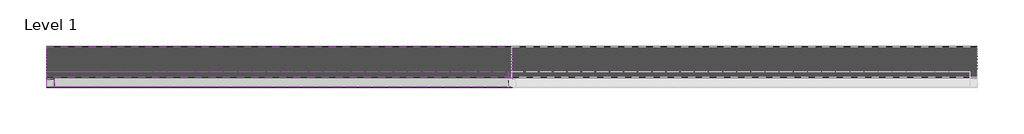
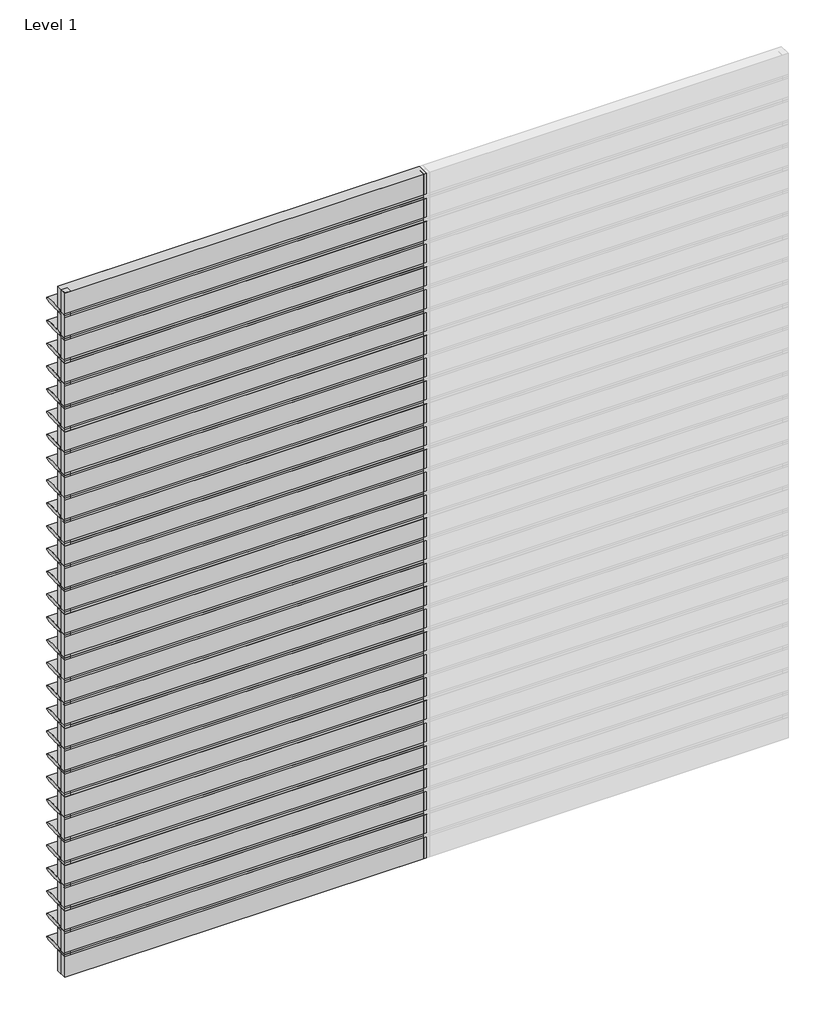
# One storey, part 1 of 2: 74 members, 60 plates.
"""IFC4 building model written with IfcOpenShell, lengths in millimetres."""

from ifc_helpers import new_model, si_unit, origin, place, context, project, spatial, transform, mapped, element, save
from components import rectangular_mullion_139a1767, rectangular_mullion_a06afc58, empty_system_panel_empty_0b604c90, empty_system_panel_empty_68612530, empty_system_panel_empty_34a2d59f

model = new_model("IFC4")

# Units and contexts
model_context = context("Model", 3, world=origin())
ifc_project = project(units=[si_unit("LENGTHUNIT", "METRE", prefix="MILLI")], contexts=[model_context])

# Site, building, storey
site = spatial("IfcSite", under=ifc_project)
building = spatial("IfcBuilding", under=site)
storey = spatial("IfcBuildingStorey", under=building, Name="Level 1", Elevation=0.0)

# Members
placement = place(None, origin())
rectangular_mullion_shape = rectangular_mullion_139a1767(model_context)
element("IfcMember", 1, ObjectType="Rectangular Mullion : RSen_21_CWM_blade - 200 ellips - 0°_gen_duco projects", at=placement, inside=storey, context=model_context, shape_type="MappedRepresentation", body=[
    mapped(rectangular_mullion_shape, transform((3000.0, 3000.0, 200.0), x_axis=(0.0, 0.0, 1.0), y_axis=(0.0, 1.0, 0.0), z_axis=(-1.0, 0.0, 0.0))),
])
element("IfcMember", 2, ObjectType="Rectangular Mullion : RSen_21_CWM_blade - 200 ellips - 0°_gen_duco projects", at=placement, inside=storey, context=model_context, shape_type="MappedRepresentation", body=[
    mapped(rectangular_mullion_shape, transform((3000.0, 3000.0, 400.0), x_axis=(0.0, 0.0, 1.0), y_axis=(0.0, 1.0, 0.0), z_axis=(-1.0, 0.0, 0.0))),
])
element("IfcMember", 3, ObjectType="Rectangular Mullion : RSen_21_CWM_blade - 200 ellips - 0°_gen_duco projects", at=placement, inside=storey, context=model_context, shape_type="MappedRepresentation", body=[
    mapped(rectangular_mullion_shape, transform((3000.0, 3000.0, 600.0), x_axis=(0.0, 0.0, 1.0), y_axis=(0.0, 1.0, 0.0), z_axis=(-1.0, 0.0, 0.0))),
])
element("IfcMember", 4, ObjectType="Rectangular Mullion : RSen_21_CWM_blade - 200 ellips - 0°_gen_duco projects", at=placement, inside=storey, context=model_context, shape_type="MappedRepresentation", body=[
    mapped(rectangular_mullion_shape, transform((3000.0, 3000.0, 800.0), x_axis=(0.0, 0.0, 1.0), y_axis=(0.0, 1.0, 0.0), z_axis=(-1.0, 0.0, 0.0))),
])
element("IfcMember", 5, ObjectType="Rectangular Mullion : RSen_21_CWM_blade - 200 ellips - 0°_gen_duco projects", at=placement, inside=storey, context=model_context, shape_type="MappedRepresentation", body=[
    mapped(rectangular_mullion_shape, transform((3000.0, 3000.0, 1000.0), x_axis=(0.0, 0.0, 1.0), y_axis=(0.0, 1.0, 0.0), z_axis=(-1.0, 0.0, 0.0))),
])
element("IfcMember", 6, ObjectType="Rectangular Mullion : RSen_21_CWM_blade - 200 ellips - 0°_gen_duco projects", at=placement, inside=storey, context=model_context, shape_type="MappedRepresentation", body=[
    mapped(rectangular_mullion_shape, transform((3000.0, 3000.0, 1200.0), x_axis=(0.0, 0.0, 1.0), y_axis=(0.0, 1.0, 0.0), z_axis=(-1.0, 0.0, 0.0))),
])
element("IfcMember", 7, ObjectType="Rectangular Mullion : RSen_21_CWM_blade - 200 ellips - 0°_gen_duco projects", at=placement, inside=storey, context=model_context, shape_type="MappedRepresentation", body=[
    mapped(rectangular_mullion_shape, transform((3000.0, 3000.0, 1400.0), x_axis=(0.0, 0.0, 1.0), y_axis=(0.0, 1.0, 0.0), z_axis=(-1.0, 0.0, 0.0))),
])
element("IfcMember", 8, ObjectType="Rectangular Mullion : RSen_21_CWM_blade - 200 ellips - 0°_gen_duco projects", at=placement, inside=storey, context=model_context, shape_type="MappedRepresentation", body=[
    mapped(rectangular_mullion_shape, transform((3000.0, 3000.0, 1600.0), x_axis=(0.0, 0.0, 1.0), y_axis=(0.0, 1.0, 0.0), z_axis=(-1.0, 0.0, 0.0))),
])
element("IfcMember", 9, ObjectType="Rectangular Mullion : RSen_21_CWM_blade - 200 ellips - 0°_gen_duco projects", at=placement, inside=storey, context=model_context, shape_type="MappedRepresentation", body=[
    mapped(rectangular_mullion_shape, transform((3000.0, 3000.0, 1800.0), x_axis=(0.0, 0.0, 1.0), y_axis=(0.0, 1.0, 0.0), z_axis=(-1.0, 0.0, 0.0))),
])
element("IfcMember", 10, ObjectType="Rectangular Mullion : RSen_21_CWM_blade - 200 ellips - 0°_gen_duco projects", at=placement, inside=storey, context=model_context, shape_type="MappedRepresentation", body=[
    mapped(rectangular_mullion_shape, transform((3000.0, 3000.0, 2000.0), x_axis=(0.0, 0.0, 1.0), y_axis=(0.0, 1.0, 0.0), z_axis=(-1.0, 0.0, 0.0))),
])
element("IfcMember", 11, ObjectType="Rectangular Mullion : RSen_21_CWM_blade - 200 ellips - 0°_gen_duco projects", at=placement, inside=storey, context=model_context, shape_type="MappedRepresentation", body=[
    mapped(rectangular_mullion_shape, transform((3000.0, 3000.0, 2200.0), x_axis=(0.0, 0.0, 1.0), y_axis=(0.0, 1.0, 0.0), z_axis=(-1.0, 0.0, 0.0))),
])
element("IfcMember", 12, ObjectType="Rectangular Mullion : RSen_21_CWM_blade - 200 ellips - 0°_gen_duco projects", at=placement, inside=storey, context=model_context, shape_type="MappedRepresentation", body=[
    mapped(rectangular_mullion_shape, transform((3000.0, 3000.0, 2400.0), x_axis=(0.0, 0.0, 1.0), y_axis=(0.0, 1.0, 0.0), z_axis=(-1.0, 0.0, 0.0))),
])
element("IfcMember", 13, ObjectType="Rectangular Mullion : RSen_21_CWM_blade - 200 ellips - 0°_gen_duco projects", at=placement, inside=storey, context=model_context, shape_type="MappedRepresentation", body=[
    mapped(rectangular_mullion_shape, transform((3000.0, 3000.0, 2600.0), x_axis=(0.0, 0.0, 1.0), y_axis=(0.0, 1.0, 0.0), z_axis=(-1.0, 0.0, 0.0))),
])
element("IfcMember", 14, ObjectType="Rectangular Mullion : RSen_21_CWM_blade - 200 ellips - 0°_gen_duco projects", at=placement, inside=storey, context=model_context, shape_type="MappedRepresentation", body=[
    mapped(rectangular_mullion_shape, transform((3000.0, 3000.0, 2800.0), x_axis=(0.0, 0.0, 1.0), y_axis=(0.0, 1.0, 0.0), z_axis=(-1.0, 0.0, 0.0))),
])
element("IfcMember", 15, ObjectType="Rectangular Mullion : RSen_21_CWM_blade - 200 ellips - 0°_gen_duco projects", at=placement, inside=storey, context=model_context, shape_type="MappedRepresentation", body=[
    mapped(rectangular_mullion_shape, transform((3000.0, 3000.0, 3000.0), x_axis=(0.0, 0.0, 1.0), y_axis=(0.0, 1.0, 0.0), z_axis=(-1.0, 0.0, 0.0))),
])
element("IfcMember", 16, ObjectType="Rectangular Mullion : RSen_21_CWM_blade - 200 ellips - 0°_gen_duco projects", at=placement, inside=storey, context=model_context, shape_type="MappedRepresentation", body=[
    mapped(rectangular_mullion_shape, transform((0.0, 3000.0, 200.0), x_axis=(0.0, 0.0, 1.0), y_axis=(0.0, 1.0, 0.0), z_axis=(-1.0, 0.0, 0.0))),
])
element("IfcMember", 17, ObjectType="Rectangular Mullion : RSen_21_CWM_blade - 200 ellips - 0°_gen_duco projects", at=placement, inside=storey, context=model_context, shape_type="MappedRepresentation", body=[
    mapped(rectangular_mullion_shape, transform((0.0, 3000.0, 400.0), x_axis=(0.0, 0.0, 1.0), y_axis=(0.0, 1.0, 0.0), z_axis=(-1.0, 0.0, 0.0))),
])
element("IfcMember", 18, ObjectType="Rectangular Mullion : RSen_21_CWM_blade - 200 ellips - 0°_gen_duco projects", at=placement, inside=storey, context=model_context, shape_type="MappedRepresentation", body=[
    mapped(rectangular_mullion_shape, transform((0.0, 3000.0, 600.0), x_axis=(0.0, 0.0, 1.0), y_axis=(0.0, 1.0, 0.0), z_axis=(-1.0, 0.0, 0.0))),
])
element("IfcMember", 19, ObjectType="Rectangular Mullion : RSen_21_CWM_blade - 200 ellips - 0°_gen_duco projects", at=placement, inside=storey, context=model_context, shape_type="MappedRepresentation", body=[
    mapped(rectangular_mullion_shape, transform((0.0, 3000.0, 800.0), x_axis=(0.0, 0.0, 1.0), y_axis=(0.0, 1.0, 0.0), z_axis=(-1.0, 0.0, 0.0))),
])
element("IfcMember", 20, ObjectType="Rectangular Mullion : RSen_21_CWM_blade - 200 ellips - 0°_gen_duco projects", at=placement, inside=storey, context=model_context, shape_type="MappedRepresentation", body=[
    mapped(rectangular_mullion_shape, transform((0.0, 3000.0, 1000.0), x_axis=(0.0, 0.0, 1.0), y_axis=(0.0, 1.0, 0.0), z_axis=(-1.0, 0.0, 0.0))),
])
element("IfcMember", 21, ObjectType="Rectangular Mullion : RSen_21_CWM_blade - 200 ellips - 0°_gen_duco projects", at=placement, inside=storey, context=model_context, shape_type="MappedRepresentation", body=[
    mapped(rectangular_mullion_shape, transform((0.0, 3000.0, 1200.0), x_axis=(0.0, 0.0, 1.0), y_axis=(0.0, 1.0, 0.0), z_axis=(-1.0, 0.0, 0.0))),
])
element("IfcMember", 22, ObjectType="Rectangular Mullion : RSen_21_CWM_blade - 200 ellips - 0°_gen_duco projects", at=placement, inside=storey, context=model_context, shape_type="MappedRepresentation", body=[
    mapped(rectangular_mullion_shape, transform((0.0, 3000.0, 1400.0), x_axis=(0.0, 0.0, 1.0), y_axis=(0.0, 1.0, 0.0), z_axis=(-1.0, 0.0, 0.0))),
])
element("IfcMember", 23, ObjectType="Rectangular Mullion : RSen_21_CWM_blade - 200 ellips - 0°_gen_duco projects", at=placement, inside=storey, context=model_context, shape_type="MappedRepresentation", body=[
    mapped(rectangular_mullion_shape, transform((0.0, 3000.0, 1600.0), x_axis=(0.0, 0.0, 1.0), y_axis=(0.0, 1.0, 0.0), z_axis=(-1.0, 0.0, 0.0))),
])
element("IfcMember", 24, ObjectType="Rectangular Mullion : RSen_21_CWM_blade - 200 ellips - 0°_gen_duco projects", at=placement, inside=storey, context=model_context, shape_type="MappedRepresentation", body=[
    mapped(rectangular_mullion_shape, transform((0.0, 3000.0, 1800.0), x_axis=(0.0, 0.0, 1.0), y_axis=(0.0, 1.0, 0.0), z_axis=(-1.0, 0.0, 0.0))),
])
element("IfcMember", 25, ObjectType="Rectangular Mullion : RSen_21_CWM_blade - 200 ellips - 0°_gen_duco projects", at=placement, inside=storey, context=model_context, shape_type="MappedRepresentation", body=[
    mapped(rectangular_mullion_shape, transform((0.0, 3000.0, 2000.0), x_axis=(0.0, 0.0, 1.0), y_axis=(0.0, 1.0, 0.0), z_axis=(-1.0, 0.0, 0.0))),
])
element("IfcMember", 26, ObjectType="Rectangular Mullion : RSen_21_CWM_blade - 200 ellips - 0°_gen_duco projects", at=placement, inside=storey, context=model_context, shape_type="MappedRepresentation", body=[
    mapped(rectangular_mullion_shape, transform((0.0, 3000.0, 2200.0), x_axis=(0.0, 0.0, 1.0), y_axis=(0.0, 1.0, 0.0), z_axis=(-1.0, 0.0, 0.0))),
])
element("IfcMember", 27, ObjectType="Rectangular Mullion : RSen_21_CWM_blade - 200 ellips - 0°_gen_duco projects", at=placement, inside=storey, context=model_context, shape_type="MappedRepresentation", body=[
    mapped(rectangular_mullion_shape, transform((0.0, 3000.0, 2400.0), x_axis=(0.0, 0.0, 1.0), y_axis=(0.0, 1.0, 0.0), z_axis=(-1.0, 0.0, 0.0))),
])
element("IfcMember", 28, ObjectType="Rectangular Mullion : RSen_21_CWM_blade - 200 ellips - 0°_gen_duco projects", at=placement, inside=storey, context=model_context, shape_type="MappedRepresentation", body=[
    mapped(rectangular_mullion_shape, transform((0.0, 3000.0, 2600.0), x_axis=(0.0, 0.0, 1.0), y_axis=(0.0, 1.0, 0.0), z_axis=(-1.0, 0.0, 0.0))),
])
element("IfcMember", 29, ObjectType="Rectangular Mullion : RSen_21_CWM_blade - 200 ellips - 0°_gen_duco projects", at=placement, inside=storey, context=model_context, shape_type="MappedRepresentation", body=[
    mapped(rectangular_mullion_shape, transform((0.0, 3000.0, 2800.0), x_axis=(0.0, 0.0, 1.0), y_axis=(0.0, 1.0, 0.0), z_axis=(-1.0, 0.0, 0.0))),
])
element("IfcMember", 30, ObjectType="Rectangular Mullion : RSen_21_CWM_blade - 200 ellips - 0°_gen_duco projects", at=placement, inside=storey, context=model_context, shape_type="MappedRepresentation", body=[
    mapped(rectangular_mullion_shape, transform((0.0, 3000.0, 3000.0), x_axis=(0.0, 0.0, 1.0), y_axis=(0.0, 1.0, 0.0), z_axis=(-1.0, 0.0, 0.0))),
])
element("IfcMember", 31, ObjectType="Rectangular Mullion : RSen_21_CWM_blade - 200 ellips - 0°_gen_duco projects", at=placement, inside=storey, context=model_context, shape_type="MappedRepresentation", body=[
    mapped(rectangular_mullion_shape, transform((0.0, 3000.0, 3200.0), x_axis=(0.0, 0.0, 1.0), y_axis=(0.0, 1.0, 0.0), z_axis=(-1.0, 0.0, 0.0))),
])
element("IfcMember", 32, ObjectType="Rectangular Mullion : RSen_21_CWM_blade - 200 ellips - 0°_gen_duco projects", at=placement, inside=storey, context=model_context, shape_type="MappedRepresentation", body=[
    mapped(rectangular_mullion_shape, transform((0.0, 3000.0, 3400.0), x_axis=(0.0, 0.0, 1.0), y_axis=(0.0, 1.0, 0.0), z_axis=(-1.0, 0.0, 0.0))),
])
element("IfcMember", 33, ObjectType="Rectangular Mullion : RSen_21_CWM_blade - 200 ellips - 0°_gen_duco projects", at=placement, inside=storey, context=model_context, shape_type="MappedRepresentation", body=[
    mapped(rectangular_mullion_shape, transform((0.0, 3000.0, 3600.0), x_axis=(0.0, 0.0, 1.0), y_axis=(0.0, 1.0, 0.0), z_axis=(-1.0, 0.0, 0.0))),
])
element("IfcMember", 34, ObjectType="Rectangular Mullion : RSen_21_CWM_blade - 200 ellips - 0°_gen_duco projects", at=placement, inside=storey, context=model_context, shape_type="MappedRepresentation", body=[
    mapped(rectangular_mullion_shape, transform((0.0, 3000.0, 3800.0), x_axis=(0.0, 0.0, 1.0), y_axis=(0.0, 1.0, 0.0), z_axis=(-1.0, 0.0, 0.0))),
])
element("IfcMember", 35, ObjectType="Rectangular Mullion : RSen_21_CWM_blade - 200 ellips - 0°_gen_duco projects", at=placement, inside=storey, context=model_context, shape_type="MappedRepresentation", body=[
    mapped(rectangular_mullion_shape, transform((0.0, 3000.0, 4000.0), x_axis=(0.0, 0.0, 1.0), y_axis=(0.0, 1.0, 0.0), z_axis=(-1.0, 0.0, 0.0))),
])
element("IfcMember", 36, ObjectType="Rectangular Mullion : RSen_21_CWM_blade - 200 ellips - 0°_gen_duco projects", at=placement, inside=storey, context=model_context, shape_type="MappedRepresentation", body=[
    mapped(rectangular_mullion_shape, transform((0.0, 3000.0, 4200.0), x_axis=(0.0, 0.0, 1.0), y_axis=(0.0, 1.0, 0.0), z_axis=(-1.0, 0.0, 0.0))),
])
element("IfcMember", 37, ObjectType="Rectangular Mullion : RSen_21_CWM_blade - 200 ellips - 0°_gen_duco projects", at=placement, inside=storey, context=model_context, shape_type="MappedRepresentation", body=[
    mapped(rectangular_mullion_shape, transform((0.0, 3000.0, 4400.0), x_axis=(0.0, 0.0, 1.0), y_axis=(0.0, 1.0, 0.0), z_axis=(-1.0, 0.0, 0.0))),
])
element("IfcMember", 38, ObjectType="Rectangular Mullion : RSen_21_CWM_blade - 200 ellips - 0°_gen_duco projects", at=placement, inside=storey, context=model_context, shape_type="MappedRepresentation", body=[
    mapped(rectangular_mullion_shape, transform((0.0, 3000.0, 4600.0), x_axis=(0.0, 0.0, 1.0), y_axis=(0.0, 1.0, 0.0), z_axis=(-1.0, 0.0, 0.0))),
])
element("IfcMember", 39, ObjectType="Rectangular Mullion : RSen_21_CWM_blade - 200 ellips - 0°_gen_duco projects", at=placement, inside=storey, context=model_context, shape_type="MappedRepresentation", body=[
    mapped(rectangular_mullion_shape, transform((0.0, 3000.0, 4800.0), x_axis=(0.0, 0.0, 1.0), y_axis=(0.0, 1.0, 0.0), z_axis=(-1.0, 0.0, 0.0))),
])
element("IfcMember", 40, ObjectType="Rectangular Mullion : RSen_21_CWM_blade - 200 ellips - 0°_gen_duco projects", at=placement, inside=storey, context=model_context, shape_type="MappedRepresentation", body=[
    mapped(rectangular_mullion_shape, transform((0.0, 3000.0, 5000.0), x_axis=(0.0, 0.0, 1.0), y_axis=(0.0, 1.0, 0.0), z_axis=(-1.0, 0.0, 0.0))),
])
element("IfcMember", 41, ObjectType="Rectangular Mullion : RSen_21_CWM_blade - 200 ellips - 0°_gen_duco projects", at=placement, inside=storey, context=model_context, shape_type="MappedRepresentation", body=[
    mapped(rectangular_mullion_shape, transform((0.0, 3000.0, 5200.0), x_axis=(0.0, 0.0, 1.0), y_axis=(0.0, 1.0, 0.0), z_axis=(-1.0, 0.0, 0.0))),
])
element("IfcMember", 42, ObjectType="Rectangular Mullion : RSen_21_CWM_blade - 200 ellips - 0°_gen_duco projects", at=placement, inside=storey, context=model_context, shape_type="MappedRepresentation", body=[
    mapped(rectangular_mullion_shape, transform((0.0, 3000.0, 5400.0), x_axis=(0.0, 0.0, 1.0), y_axis=(0.0, 1.0, 0.0), z_axis=(-1.0, 0.0, 0.0))),
])
element("IfcMember", 43, ObjectType="Rectangular Mullion : RSen_21_CWM_blade - 200 ellips - 0°_gen_duco projects", at=placement, inside=storey, context=model_context, shape_type="MappedRepresentation", body=[
    mapped(rectangular_mullion_shape, transform((0.0, 3000.0, 5600.0), x_axis=(0.0, 0.0, 1.0), y_axis=(0.0, 1.0, 0.0), z_axis=(-1.0, 0.0, 0.0))),
])
element("IfcMember", 44, ObjectType="Rectangular Mullion : RSen_21_CWM_blade - 200 ellips - 0°_gen_duco projects", at=placement, inside=storey, context=model_context, shape_type="MappedRepresentation", body=[
    mapped(rectangular_mullion_shape, transform((0.0, 3000.0, 5800.0), x_axis=(0.0, 0.0, 1.0), y_axis=(0.0, 1.0, 0.0), z_axis=(-1.0, 0.0, 0.0))),
])
rectangular_mullion_2_shape = rectangular_mullion_a06afc58(model_context)
element("IfcMember", 45, ObjectType="Rectangular Mullion : RSen_21_CWM_support profile 50x50 - left_gen_duco projects", at=placement, inside=storey, context=model_context, shape_type="MappedRepresentation", body=[
    mapped(rectangular_mullion_2_shape, transform((0.0, 3000.0, 0.0), x_axis=(-1.0, 0.0, 0.0), y_axis=(0.0, 1.0, 0.0), z_axis=(0.0, 0.0, -1.0))),
])
element("IfcMember", 46, ObjectType="Rectangular Mullion : RSen_21_CWM_support profile 50x50 - left_gen_duco projects", at=placement, inside=storey, context=model_context, shape_type="MappedRepresentation", body=[
    mapped(rectangular_mullion_2_shape, transform((0.0, 3000.0, 200.0), x_axis=(-1.0, 0.0, 0.0), y_axis=(0.0, 1.0, 0.0), z_axis=(0.0, 0.0, -1.0))),
])
element("IfcMember", 47, ObjectType="Rectangular Mullion : RSen_21_CWM_support profile 50x50 - left_gen_duco projects", at=placement, inside=storey, context=model_context, shape_type="MappedRepresentation", body=[
    mapped(rectangular_mullion_2_shape, transform((0.0, 3000.0, 400.0), x_axis=(-1.0, 0.0, 0.0), y_axis=(0.0, 1.0, 0.0), z_axis=(0.0, 0.0, -1.0))),
])
element("IfcMember", 48, ObjectType="Rectangular Mullion : RSen_21_CWM_support profile 50x50 - left_gen_duco projects", at=placement, inside=storey, context=model_context, shape_type="MappedRepresentation", body=[
    mapped(rectangular_mullion_2_shape, transform((0.0, 3000.0, 600.0), x_axis=(-1.0, 0.0, 0.0), y_axis=(0.0, 1.0, 0.0), z_axis=(0.0, 0.0, -1.0))),
])
element("IfcMember", 49, ObjectType="Rectangular Mullion : RSen_21_CWM_support profile 50x50 - left_gen_duco projects", at=placement, inside=storey, context=model_context, shape_type="MappedRepresentation", body=[
    mapped(rectangular_mullion_2_shape, transform((0.0, 3000.0, 800.0), x_axis=(-1.0, 0.0, 0.0), y_axis=(0.0, 1.0, 0.0), z_axis=(0.0, 0.0, -1.0))),
])
element("IfcMember", 50, ObjectType="Rectangular Mullion : RSen_21_CWM_support profile 50x50 - left_gen_duco projects", at=placement, inside=storey, context=model_context, shape_type="MappedRepresentation", body=[
    mapped(rectangular_mullion_2_shape, transform((0.0, 3000.0, 1000.0), x_axis=(-1.0, 0.0, 0.0), y_axis=(0.0, 1.0, 0.0), z_axis=(0.0, 0.0, -1.0))),
])
element("IfcMember", 51, ObjectType="Rectangular Mullion : RSen_21_CWM_support profile 50x50 - left_gen_duco projects", at=placement, inside=storey, context=model_context, shape_type="MappedRepresentation", body=[
    mapped(rectangular_mullion_2_shape, transform((0.0, 3000.0, 1200.0), x_axis=(-1.0, 0.0, 0.0), y_axis=(0.0, 1.0, 0.0), z_axis=(0.0, 0.0, -1.0))),
])
element("IfcMember", 52, ObjectType="Rectangular Mullion : RSen_21_CWM_support profile 50x50 - left_gen_duco projects", at=placement, inside=storey, context=model_context, shape_type="MappedRepresentation", body=[
    mapped(rectangular_mullion_2_shape, transform((0.0, 3000.0, 1400.0), x_axis=(-1.0, 0.0, 0.0), y_axis=(0.0, 1.0, 0.0), z_axis=(0.0, 0.0, -1.0))),
])
element("IfcMember", 53, ObjectType="Rectangular Mullion : RSen_21_CWM_support profile 50x50 - left_gen_duco projects", at=placement, inside=storey, context=model_context, shape_type="MappedRepresentation", body=[
    mapped(rectangular_mullion_2_shape, transform((0.0, 3000.0, 1600.0), x_axis=(-1.0, 0.0, 0.0), y_axis=(0.0, 1.0, 0.0), z_axis=(0.0, 0.0, -1.0))),
])
element("IfcMember", 54, ObjectType="Rectangular Mullion : RSen_21_CWM_support profile 50x50 - left_gen_duco projects", at=placement, inside=storey, context=model_context, shape_type="MappedRepresentation", body=[
    mapped(rectangular_mullion_2_shape, transform((0.0, 3000.0, 1800.0), x_axis=(-1.0, 0.0, 0.0), y_axis=(0.0, 1.0, 0.0), z_axis=(0.0, 0.0, -1.0))),
])
element("IfcMember", 55, ObjectType="Rectangular Mullion : RSen_21_CWM_support profile 50x50 - left_gen_duco projects", at=placement, inside=storey, context=model_context, shape_type="MappedRepresentation", body=[
    mapped(rectangular_mullion_2_shape, transform((0.0, 3000.0, 2000.0), x_axis=(-1.0, 0.0, 0.0), y_axis=(0.0, 1.0, 0.0), z_axis=(0.0, 0.0, -1.0))),
])
element("IfcMember", 56, ObjectType="Rectangular Mullion : RSen_21_CWM_support profile 50x50 - left_gen_duco projects", at=placement, inside=storey, context=model_context, shape_type="MappedRepresentation", body=[
    mapped(rectangular_mullion_2_shape, transform((0.0, 3000.0, 2200.0), x_axis=(-1.0, 0.0, 0.0), y_axis=(0.0, 1.0, 0.0), z_axis=(0.0, 0.0, -1.0))),
])
element("IfcMember", 57, ObjectType="Rectangular Mullion : RSen_21_CWM_support profile 50x50 - left_gen_duco projects", at=placement, inside=storey, context=model_context, shape_type="MappedRepresentation", body=[
    mapped(rectangular_mullion_2_shape, transform((0.0, 3000.0, 2400.0), x_axis=(-1.0, 0.0, 0.0), y_axis=(0.0, 1.0, 0.0), z_axis=(0.0, 0.0, -1.0))),
])
element("IfcMember", 58, ObjectType="Rectangular Mullion : RSen_21_CWM_support profile 50x50 - left_gen_duco projects", at=placement, inside=storey, context=model_context, shape_type="MappedRepresentation", body=[
    mapped(rectangular_mullion_2_shape, transform((0.0, 3000.0, 2600.0), x_axis=(-1.0, 0.0, 0.0), y_axis=(0.0, 1.0, 0.0), z_axis=(0.0, 0.0, -1.0))),
])
element("IfcMember", 59, ObjectType="Rectangular Mullion : RSen_21_CWM_support profile 50x50 - left_gen_duco projects", at=placement, inside=storey, context=model_context, shape_type="MappedRepresentation", body=[
    mapped(rectangular_mullion_2_shape, transform((0.0, 3000.0, 2800.0), x_axis=(-1.0, 0.0, 0.0), y_axis=(0.0, 1.0, 0.0), z_axis=(0.0, 0.0, -1.0))),
])
element("IfcMember", 60, ObjectType="Rectangular Mullion : RSen_21_CWM_support profile 50x50 - left_gen_duco projects", at=placement, inside=storey, context=model_context, shape_type="MappedRepresentation", body=[
    mapped(rectangular_mullion_2_shape, transform((0.0, 3000.0, 3000.0), x_axis=(-1.0, 0.0, 0.0), y_axis=(0.0, 1.0, 0.0), z_axis=(0.0, 0.0, -1.0))),
])
element("IfcMember", 61, ObjectType="Rectangular Mullion : RSen_21_CWM_support profile 50x50 - left_gen_duco projects", at=placement, inside=storey, context=model_context, shape_type="MappedRepresentation", body=[
    mapped(rectangular_mullion_2_shape, transform((0.0, 3000.0, 3200.0), x_axis=(-1.0, 0.0, 0.0), y_axis=(0.0, 1.0, 0.0), z_axis=(0.0, 0.0, -1.0))),
])
element("IfcMember", 62, ObjectType="Rectangular Mullion : RSen_21_CWM_support profile 50x50 - left_gen_duco projects", at=placement, inside=storey, context=model_context, shape_type="MappedRepresentation", body=[
    mapped(rectangular_mullion_2_shape, transform((0.0, 3000.0, 3400.0), x_axis=(-1.0, 0.0, 0.0), y_axis=(0.0, 1.0, 0.0), z_axis=(0.0, 0.0, -1.0))),
])
element("IfcMember", 63, ObjectType="Rectangular Mullion : RSen_21_CWM_support profile 50x50 - left_gen_duco projects", at=placement, inside=storey, context=model_context, shape_type="MappedRepresentation", body=[
    mapped(rectangular_mullion_2_shape, transform((0.0, 3000.0, 3600.0), x_axis=(-1.0, 0.0, 0.0), y_axis=(0.0, 1.0, 0.0), z_axis=(0.0, 0.0, -1.0))),
])
element("IfcMember", 64, ObjectType="Rectangular Mullion : RSen_21_CWM_support profile 50x50 - left_gen_duco projects", at=placement, inside=storey, context=model_context, shape_type="MappedRepresentation", body=[
    mapped(rectangular_mullion_2_shape, transform((0.0, 3000.0, 3800.0), x_axis=(-1.0, 0.0, 0.0), y_axis=(0.0, 1.0, 0.0), z_axis=(0.0, 0.0, -1.0))),
])
element("IfcMember", 65, ObjectType="Rectangular Mullion : RSen_21_CWM_support profile 50x50 - left_gen_duco projects", at=placement, inside=storey, context=model_context, shape_type="MappedRepresentation", body=[
    mapped(rectangular_mullion_2_shape, transform((0.0, 3000.0, 4000.0), x_axis=(-1.0, 0.0, 0.0), y_axis=(0.0, 1.0, 0.0), z_axis=(0.0, 0.0, -1.0))),
])
element("IfcMember", 66, ObjectType="Rectangular Mullion : RSen_21_CWM_support profile 50x50 - left_gen_duco projects", at=placement, inside=storey, context=model_context, shape_type="MappedRepresentation", body=[
    mapped(rectangular_mullion_2_shape, transform((0.0, 3000.0, 4200.0), x_axis=(-1.0, 0.0, 0.0), y_axis=(0.0, 1.0, 0.0), z_axis=(0.0, 0.0, -1.0))),
])
element("IfcMember", 67, ObjectType="Rectangular Mullion : RSen_21_CWM_support profile 50x50 - left_gen_duco projects", at=placement, inside=storey, context=model_context, shape_type="MappedRepresentation", body=[
    mapped(rectangular_mullion_2_shape, transform((0.0, 3000.0, 4400.0), x_axis=(-1.0, 0.0, 0.0), y_axis=(0.0, 1.0, 0.0), z_axis=(0.0, 0.0, -1.0))),
])
element("IfcMember", 68, ObjectType="Rectangular Mullion : RSen_21_CWM_support profile 50x50 - left_gen_duco projects", at=placement, inside=storey, context=model_context, shape_type="MappedRepresentation", body=[
    mapped(rectangular_mullion_2_shape, transform((0.0, 3000.0, 4600.0), x_axis=(-1.0, 0.0, 0.0), y_axis=(0.0, 1.0, 0.0), z_axis=(0.0, 0.0, -1.0))),
])
element("IfcMember", 69, ObjectType="Rectangular Mullion : RSen_21_CWM_support profile 50x50 - left_gen_duco projects", at=placement, inside=storey, context=model_context, shape_type="MappedRepresentation", body=[
    mapped(rectangular_mullion_2_shape, transform((0.0, 3000.0, 4800.0), x_axis=(-1.0, 0.0, 0.0), y_axis=(0.0, 1.0, 0.0), z_axis=(0.0, 0.0, -1.0))),
])
element("IfcMember", 70, ObjectType="Rectangular Mullion : RSen_21_CWM_support profile 50x50 - left_gen_duco projects", at=placement, inside=storey, context=model_context, shape_type="MappedRepresentation", body=[
    mapped(rectangular_mullion_2_shape, transform((0.0, 3000.0, 5000.0), x_axis=(-1.0, 0.0, 0.0), y_axis=(0.0, 1.0, 0.0), z_axis=(0.0, 0.0, -1.0))),
])
element("IfcMember", 71, ObjectType="Rectangular Mullion : RSen_21_CWM_support profile 50x50 - left_gen_duco projects", at=placement, inside=storey, context=model_context, shape_type="MappedRepresentation", body=[
    mapped(rectangular_mullion_2_shape, transform((0.0, 3000.0, 5200.0), x_axis=(-1.0, 0.0, 0.0), y_axis=(0.0, 1.0, 0.0), z_axis=(0.0, 0.0, -1.0))),
])
element("IfcMember", 72, ObjectType="Rectangular Mullion : RSen_21_CWM_support profile 50x50 - left_gen_duco projects", at=placement, inside=storey, context=model_context, shape_type="MappedRepresentation", body=[
    mapped(rectangular_mullion_2_shape, transform((0.0, 3000.0, 5400.0), x_axis=(-1.0, 0.0, 0.0), y_axis=(0.0, 1.0, 0.0), z_axis=(0.0, 0.0, -1.0))),
])
element("IfcMember", 73, ObjectType="Rectangular Mullion : RSen_21_CWM_support profile 50x50 - left_gen_duco projects", at=placement, inside=storey, context=model_context, shape_type="MappedRepresentation", body=[
    mapped(rectangular_mullion_2_shape, transform((0.0, 3000.0, 5600.0), x_axis=(-1.0, 0.0, 0.0), y_axis=(0.0, 1.0, 0.0), z_axis=(0.0, 0.0, -1.0))),
])
element("IfcMember", 74, ObjectType="Rectangular Mullion : RSen_21_CWM_support profile 50x50 - left_gen_duco projects", at=placement, inside=storey, context=model_context, shape_type="MappedRepresentation", body=[
    mapped(rectangular_mullion_2_shape, transform((0.0, 3000.0, 5800.0), x_axis=(-1.0, 0.0, 0.0), y_axis=(0.0, 1.0, 0.0), z_axis=(0.0, 0.0, -1.0))),
])

# Plates
empty_system_panel_empty_shape = empty_system_panel_empty_0b604c90(model_context)
element("IfcPlate", 75, ObjectType="Empty System Panel : Empty", at=placement, inside=storey, context=model_context, shape_type="MappedRepresentation", body=[
    mapped(empty_system_panel_empty_shape, transform((1500.0, 3000.0, 0.0), x_axis=(-1.0, 0.0, 0.0), y_axis=(0.0, -1.0, 0.0), z_axis=(0.0, 0.0, 1.0))),
])
element("IfcPlate", 76, ObjectType="Empty System Panel : Empty", at=placement, inside=storey, context=model_context, shape_type="MappedRepresentation", body=[
    mapped(empty_system_panel_empty_shape, transform((1500.0, 3000.0, 5818.5), x_axis=(-1.0, 0.0, 0.0), y_axis=(0.0, -1.0, 0.0), z_axis=(0.0, 0.0, 1.0))),
])
empty_system_panel_empty_2_shape = empty_system_panel_empty_68612530(model_context)
element("IfcPlate", 77, ObjectType="Empty System Panel : Empty", at=placement, inside=storey, context=model_context, shape_type="MappedRepresentation", body=[
    mapped(empty_system_panel_empty_2_shape, transform((1500.0, 3000.0, 218.5), x_axis=(-1.0, 0.0, 0.0), y_axis=(0.0, -1.0, 0.0), z_axis=(0.0, 0.0, 1.0))),
])
element("IfcPlate", 78, ObjectType="Empty System Panel : Empty", at=placement, inside=storey, context=model_context, shape_type="MappedRepresentation", body=[
    mapped(empty_system_panel_empty_2_shape, transform((1500.0, 3000.0, 418.5), x_axis=(-1.0, 0.0, 0.0), y_axis=(0.0, -1.0, 0.0), z_axis=(0.0, 0.0, 1.0))),
])
element("IfcPlate", 79, ObjectType="Empty System Panel : Empty", at=placement, inside=storey, context=model_context, shape_type="MappedRepresentation", body=[
    mapped(empty_system_panel_empty_2_shape, transform((1500.0, 3000.0, 618.5), x_axis=(-1.0, 0.0, 0.0), y_axis=(0.0, -1.0, 0.0), z_axis=(0.0, 0.0, 1.0))),
])
element("IfcPlate", 80, ObjectType="Empty System Panel : Empty", at=placement, inside=storey, context=model_context, shape_type="MappedRepresentation", body=[
    mapped(empty_system_panel_empty_2_shape, transform((1500.0, 3000.0, 818.5), x_axis=(-1.0, 0.0, 0.0), y_axis=(0.0, -1.0, 0.0), z_axis=(0.0, 0.0, 1.0))),
])
element("IfcPlate", 81, ObjectType="Empty System Panel : Empty", at=placement, inside=storey, context=model_context, shape_type="MappedRepresentation", body=[
    mapped(empty_system_panel_empty_2_shape, transform((1500.0, 3000.0, 1018.5), x_axis=(-1.0, 0.0, 0.0), y_axis=(0.0, -1.0, 0.0), z_axis=(0.0, 0.0, 1.0))),
])
element("IfcPlate", 82, ObjectType="Empty System Panel : Empty", at=placement, inside=storey, context=model_context, shape_type="MappedRepresentation", body=[
    mapped(empty_system_panel_empty_2_shape, transform((1500.0, 3000.0, 1218.5), x_axis=(-1.0, 0.0, 0.0), y_axis=(0.0, -1.0, 0.0), z_axis=(0.0, 0.0, 1.0))),
])
element("IfcPlate", 83, ObjectType="Empty System Panel : Empty", at=placement, inside=storey, context=model_context, shape_type="MappedRepresentation", body=[
    mapped(empty_system_panel_empty_2_shape, transform((1500.0, 3000.0, 1418.5), x_axis=(-1.0, 0.0, 0.0), y_axis=(0.0, -1.0, 0.0), z_axis=(0.0, 0.0, 1.0))),
])
element("IfcPlate", 84, ObjectType="Empty System Panel : Empty", at=placement, inside=storey, context=model_context, shape_type="MappedRepresentation", body=[
    mapped(empty_system_panel_empty_2_shape, transform((1500.0, 3000.0, 1618.5), x_axis=(-1.0, 0.0, 0.0), y_axis=(0.0, -1.0, 0.0), z_axis=(0.0, 0.0, 1.0))),
])
element("IfcPlate", 85, ObjectType="Empty System Panel : Empty", at=placement, inside=storey, context=model_context, shape_type="MappedRepresentation", body=[
    mapped(empty_system_panel_empty_2_shape, transform((1500.0, 3000.0, 1818.5), x_axis=(-1.0, 0.0, 0.0), y_axis=(0.0, -1.0, 0.0), z_axis=(0.0, 0.0, 1.0))),
])
element("IfcPlate", 86, ObjectType="Empty System Panel : Empty", at=placement, inside=storey, context=model_context, shape_type="MappedRepresentation", body=[
    mapped(empty_system_panel_empty_2_shape, transform((1500.0, 3000.0, 2018.5), x_axis=(-1.0, 0.0, 0.0), y_axis=(0.0, -1.0, 0.0), z_axis=(0.0, 0.0, 1.0))),
])
element("IfcPlate", 87, ObjectType="Empty System Panel : Empty", at=placement, inside=storey, context=model_context, shape_type="MappedRepresentation", body=[
    mapped(empty_system_panel_empty_2_shape, transform((1500.0, 3000.0, 2218.5), x_axis=(-1.0, 0.0, 0.0), y_axis=(0.0, -1.0, 0.0), z_axis=(0.0, 0.0, 1.0))),
])
element("IfcPlate", 88, ObjectType="Empty System Panel : Empty", at=placement, inside=storey, context=model_context, shape_type="MappedRepresentation", body=[
    mapped(empty_system_panel_empty_2_shape, transform((1500.0, 3000.0, 2418.5), x_axis=(-1.0, 0.0, 0.0), y_axis=(0.0, -1.0, 0.0), z_axis=(0.0, 0.0, 1.0))),
])
element("IfcPlate", 89, ObjectType="Empty System Panel : Empty", at=placement, inside=storey, context=model_context, shape_type="MappedRepresentation", body=[
    mapped(empty_system_panel_empty_2_shape, transform((1500.0, 3000.0, 2618.5), x_axis=(-1.0, 0.0, 0.0), y_axis=(0.0, -1.0, 0.0), z_axis=(0.0, 0.0, 1.0))),
])
element("IfcPlate", 90, ObjectType="Empty System Panel : Empty", at=placement, inside=storey, context=model_context, shape_type="MappedRepresentation", body=[
    mapped(empty_system_panel_empty_2_shape, transform((1500.0, 3000.0, 2818.5), x_axis=(-1.0, 0.0, 0.0), y_axis=(0.0, -1.0, 0.0), z_axis=(0.0, 0.0, 1.0))),
])
element("IfcPlate", 91, ObjectType="Empty System Panel : Empty", at=placement, inside=storey, context=model_context, shape_type="MappedRepresentation", body=[
    mapped(empty_system_panel_empty_2_shape, transform((1500.0, 3000.0, 3018.5), x_axis=(-1.0, 0.0, 0.0), y_axis=(0.0, -1.0, 0.0), z_axis=(0.0, 0.0, 1.0))),
])
element("IfcPlate", 92, ObjectType="Empty System Panel : Empty", at=placement, inside=storey, context=model_context, shape_type="MappedRepresentation", body=[
    mapped(empty_system_panel_empty_2_shape, transform((1500.0, 3000.0, 3218.5), x_axis=(-1.0, 0.0, 0.0), y_axis=(0.0, -1.0, 0.0), z_axis=(0.0, 0.0, 1.0))),
])
element("IfcPlate", 93, ObjectType="Empty System Panel : Empty", at=placement, inside=storey, context=model_context, shape_type="MappedRepresentation", body=[
    mapped(empty_system_panel_empty_2_shape, transform((1500.0, 3000.0, 3418.5), x_axis=(-1.0, 0.0, 0.0), y_axis=(0.0, -1.0, 0.0), z_axis=(0.0, 0.0, 1.0))),
])
element("IfcPlate", 94, ObjectType="Empty System Panel : Empty", at=placement, inside=storey, context=model_context, shape_type="MappedRepresentation", body=[
    mapped(empty_system_panel_empty_2_shape, transform((1500.0, 3000.0, 3618.5), x_axis=(-1.0, 0.0, 0.0), y_axis=(0.0, -1.0, 0.0), z_axis=(0.0, 0.0, 1.0))),
])
element("IfcPlate", 95, ObjectType="Empty System Panel : Empty", at=placement, inside=storey, context=model_context, shape_type="MappedRepresentation", body=[
    mapped(empty_system_panel_empty_2_shape, transform((1500.0, 3000.0, 3818.5), x_axis=(-1.0, 0.0, 0.0), y_axis=(0.0, -1.0, 0.0), z_axis=(0.0, 0.0, 1.0))),
])
element("IfcPlate", 96, ObjectType="Empty System Panel : Empty", at=placement, inside=storey, context=model_context, shape_type="MappedRepresentation", body=[
    mapped(empty_system_panel_empty_2_shape, transform((1500.0, 3000.0, 4018.5), x_axis=(-1.0, 0.0, 0.0), y_axis=(0.0, -1.0, 0.0), z_axis=(0.0, 0.0, 1.0))),
])
element("IfcPlate", 97, ObjectType="Empty System Panel : Empty", at=placement, inside=storey, context=model_context, shape_type="MappedRepresentation", body=[
    mapped(empty_system_panel_empty_2_shape, transform((1500.0, 3000.0, 4218.5), x_axis=(-1.0, 0.0, 0.0), y_axis=(0.0, -1.0, 0.0), z_axis=(0.0, 0.0, 1.0))),
])
element("IfcPlate", 98, ObjectType="Empty System Panel : Empty", at=placement, inside=storey, context=model_context, shape_type="MappedRepresentation", body=[
    mapped(empty_system_panel_empty_2_shape, transform((1500.0, 3000.0, 4418.5), x_axis=(-1.0, 0.0, 0.0), y_axis=(0.0, -1.0, 0.0), z_axis=(0.0, 0.0, 1.0))),
])
element("IfcPlate", 99, ObjectType="Empty System Panel : Empty", at=placement, inside=storey, context=model_context, shape_type="MappedRepresentation", body=[
    mapped(empty_system_panel_empty_2_shape, transform((1500.0, 3000.0, 4618.5), x_axis=(-1.0, 0.0, 0.0), y_axis=(0.0, -1.0, 0.0), z_axis=(0.0, 0.0, 1.0))),
])
element("IfcPlate", 100, ObjectType="Empty System Panel : Empty", at=placement, inside=storey, context=model_context, shape_type="MappedRepresentation", body=[
    mapped(empty_system_panel_empty_2_shape, transform((1500.0, 3000.0, 4818.5), x_axis=(-1.0, 0.0, 0.0), y_axis=(0.0, -1.0, 0.0), z_axis=(0.0, 0.0, 1.0))),
])
element("IfcPlate", 101, ObjectType="Empty System Panel : Empty", at=placement, inside=storey, context=model_context, shape_type="MappedRepresentation", body=[
    mapped(empty_system_panel_empty_2_shape, transform((1500.0, 3000.0, 5018.5), x_axis=(-1.0, 0.0, 0.0), y_axis=(0.0, -1.0, 0.0), z_axis=(0.0, 0.0, 1.0))),
])
element("IfcPlate", 102, ObjectType="Empty System Panel : Empty", at=placement, inside=storey, context=model_context, shape_type="MappedRepresentation", body=[
    mapped(empty_system_panel_empty_2_shape, transform((1500.0, 3000.0, 5218.5), x_axis=(-1.0, 0.0, 0.0), y_axis=(0.0, -1.0, 0.0), z_axis=(0.0, 0.0, 1.0))),
])
element("IfcPlate", 103, ObjectType="Empty System Panel : Empty", at=placement, inside=storey, context=model_context, shape_type="MappedRepresentation", body=[
    mapped(empty_system_panel_empty_2_shape, transform((1500.0, 3000.0, 5418.5), x_axis=(-1.0, 0.0, 0.0), y_axis=(0.0, -1.0, 0.0), z_axis=(0.0, 0.0, 1.0))),
])
element("IfcPlate", 104, ObjectType="Empty System Panel : Empty", at=placement, inside=storey, context=model_context, shape_type="MappedRepresentation", body=[
    mapped(empty_system_panel_empty_2_shape, transform((1500.0, 3000.0, 5618.5), x_axis=(-1.0, 0.0, 0.0), y_axis=(0.0, -1.0, 0.0), z_axis=(0.0, 0.0, 1.0))),
])
empty_system_panel_empty_3_shape = empty_system_panel_empty_34a2d59f(model_context)
element("IfcPlate", 105, ObjectType="Empty System Panel : Empty", at=placement, inside=storey, context=model_context, shape_type="MappedRepresentation", body=[
    mapped(empty_system_panel_empty_3_shape, transform((1512.5, 3000.0, 0.0), x_axis=(-1.0, 0.0, 0.0), y_axis=(0.0, -1.0, 0.0), z_axis=(0.0, 0.0, 1.0))),
])
element("IfcPlate", 106, ObjectType="Empty System Panel : Empty", at=placement, inside=storey, context=model_context, shape_type="MappedRepresentation", body=[
    mapped(empty_system_panel_empty_3_shape, transform((1512.5, 3000.0, 200.0), x_axis=(-1.0, 0.0, 0.0), y_axis=(0.0, -1.0, 0.0), z_axis=(0.0, 0.0, 1.0))),
])
element("IfcPlate", 107, ObjectType="Empty System Panel : Empty", at=placement, inside=storey, context=model_context, shape_type="MappedRepresentation", body=[
    mapped(empty_system_panel_empty_3_shape, transform((1512.5, 3000.0, 400.0), x_axis=(-1.0, 0.0, 0.0), y_axis=(0.0, -1.0, 0.0), z_axis=(0.0, 0.0, 1.0))),
])
element("IfcPlate", 108, ObjectType="Empty System Panel : Empty", at=placement, inside=storey, context=model_context, shape_type="MappedRepresentation", body=[
    mapped(empty_system_panel_empty_3_shape, transform((1512.5, 3000.0, 600.0), x_axis=(-1.0, 0.0, 0.0), y_axis=(0.0, -1.0, 0.0), z_axis=(0.0, 0.0, 1.0))),
])
element("IfcPlate", 109, ObjectType="Empty System Panel : Empty", at=placement, inside=storey, context=model_context, shape_type="MappedRepresentation", body=[
    mapped(empty_system_panel_empty_3_shape, transform((1512.5, 3000.0, 800.0), x_axis=(-1.0, 0.0, 0.0), y_axis=(0.0, -1.0, 0.0), z_axis=(0.0, 0.0, 1.0))),
])
element("IfcPlate", 110, ObjectType="Empty System Panel : Empty", at=placement, inside=storey, context=model_context, shape_type="MappedRepresentation", body=[
    mapped(empty_system_panel_empty_3_shape, transform((1512.5, 3000.0, 1000.0), x_axis=(-1.0, 0.0, 0.0), y_axis=(0.0, -1.0, 0.0), z_axis=(0.0, 0.0, 1.0))),
])
element("IfcPlate", 111, ObjectType="Empty System Panel : Empty", at=placement, inside=storey, context=model_context, shape_type="MappedRepresentation", body=[
    mapped(empty_system_panel_empty_3_shape, transform((1512.5, 3000.0, 1200.0), x_axis=(-1.0, 0.0, 0.0), y_axis=(0.0, -1.0, 0.0), z_axis=(0.0, 0.0, 1.0))),
])
element("IfcPlate", 112, ObjectType="Empty System Panel : Empty", at=placement, inside=storey, context=model_context, shape_type="MappedRepresentation", body=[
    mapped(empty_system_panel_empty_3_shape, transform((1512.5, 3000.0, 1400.0), x_axis=(-1.0, 0.0, 0.0), y_axis=(0.0, -1.0, 0.0), z_axis=(0.0, 0.0, 1.0))),
])
element("IfcPlate", 113, ObjectType="Empty System Panel : Empty", at=placement, inside=storey, context=model_context, shape_type="MappedRepresentation", body=[
    mapped(empty_system_panel_empty_3_shape, transform((1512.5, 3000.0, 1600.0), x_axis=(-1.0, 0.0, 0.0), y_axis=(0.0, -1.0, 0.0), z_axis=(0.0, 0.0, 1.0))),
])
element("IfcPlate", 114, ObjectType="Empty System Panel : Empty", at=placement, inside=storey, context=model_context, shape_type="MappedRepresentation", body=[
    mapped(empty_system_panel_empty_3_shape, transform((1512.5, 3000.0, 1800.0), x_axis=(-1.0, 0.0, 0.0), y_axis=(0.0, -1.0, 0.0), z_axis=(0.0, 0.0, 1.0))),
])
element("IfcPlate", 115, ObjectType="Empty System Panel : Empty", at=placement, inside=storey, context=model_context, shape_type="MappedRepresentation", body=[
    mapped(empty_system_panel_empty_3_shape, transform((1512.5, 3000.0, 2000.0), x_axis=(-1.0, 0.0, 0.0), y_axis=(0.0, -1.0, 0.0), z_axis=(0.0, 0.0, 1.0))),
])
element("IfcPlate", 116, ObjectType="Empty System Panel : Empty", at=placement, inside=storey, context=model_context, shape_type="MappedRepresentation", body=[
    mapped(empty_system_panel_empty_3_shape, transform((1512.5, 3000.0, 2200.0), x_axis=(-1.0, 0.0, 0.0), y_axis=(0.0, -1.0, 0.0), z_axis=(0.0, 0.0, 1.0))),
])
element("IfcPlate", 117, ObjectType="Empty System Panel : Empty", at=placement, inside=storey, context=model_context, shape_type="MappedRepresentation", body=[
    mapped(empty_system_panel_empty_3_shape, transform((1512.5, 3000.0, 2400.0), x_axis=(-1.0, 0.0, 0.0), y_axis=(0.0, -1.0, 0.0), z_axis=(0.0, 0.0, 1.0))),
])
element("IfcPlate", 118, ObjectType="Empty System Panel : Empty", at=placement, inside=storey, context=model_context, shape_type="MappedRepresentation", body=[
    mapped(empty_system_panel_empty_3_shape, transform((1512.5, 3000.0, 2600.0), x_axis=(-1.0, 0.0, 0.0), y_axis=(0.0, -1.0, 0.0), z_axis=(0.0, 0.0, 1.0))),
])
element("IfcPlate", 119, ObjectType="Empty System Panel : Empty", at=placement, inside=storey, context=model_context, shape_type="MappedRepresentation", body=[
    mapped(empty_system_panel_empty_3_shape, transform((1512.5, 3000.0, 2800.0), x_axis=(-1.0, 0.0, 0.0), y_axis=(0.0, -1.0, 0.0), z_axis=(0.0, 0.0, 1.0))),
])
element("IfcPlate", 120, ObjectType="Empty System Panel : Empty", at=placement, inside=storey, context=model_context, shape_type="MappedRepresentation", body=[
    mapped(empty_system_panel_empty_3_shape, transform((1512.5, 3000.0, 3000.0), x_axis=(-1.0, 0.0, 0.0), y_axis=(0.0, -1.0, 0.0), z_axis=(0.0, 0.0, 1.0))),
])
element("IfcPlate", 121, ObjectType="Empty System Panel : Empty", at=placement, inside=storey, context=model_context, shape_type="MappedRepresentation", body=[
    mapped(empty_system_panel_empty_3_shape, transform((1512.5, 3000.0, 3200.0), x_axis=(-1.0, 0.0, 0.0), y_axis=(0.0, -1.0, 0.0), z_axis=(0.0, 0.0, 1.0))),
])
element("IfcPlate", 122, ObjectType="Empty System Panel : Empty", at=placement, inside=storey, context=model_context, shape_type="MappedRepresentation", body=[
    mapped(empty_system_panel_empty_3_shape, transform((1512.5, 3000.0, 3400.0), x_axis=(-1.0, 0.0, 0.0), y_axis=(0.0, -1.0, 0.0), z_axis=(0.0, 0.0, 1.0))),
])
element("IfcPlate", 123, ObjectType="Empty System Panel : Empty", at=placement, inside=storey, context=model_context, shape_type="MappedRepresentation", body=[
    mapped(empty_system_panel_empty_3_shape, transform((1512.5, 3000.0, 3600.0), x_axis=(-1.0, 0.0, 0.0), y_axis=(0.0, -1.0, 0.0), z_axis=(0.0, 0.0, 1.0))),
])
element("IfcPlate", 124, ObjectType="Empty System Panel : Empty", at=placement, inside=storey, context=model_context, shape_type="MappedRepresentation", body=[
    mapped(empty_system_panel_empty_3_shape, transform((1512.5, 3000.0, 3800.0), x_axis=(-1.0, 0.0, 0.0), y_axis=(0.0, -1.0, 0.0), z_axis=(0.0, 0.0, 1.0))),
])
element("IfcPlate", 125, ObjectType="Empty System Panel : Empty", at=placement, inside=storey, context=model_context, shape_type="MappedRepresentation", body=[
    mapped(empty_system_panel_empty_3_shape, transform((1512.5, 3000.0, 4000.0), x_axis=(-1.0, 0.0, 0.0), y_axis=(0.0, -1.0, 0.0), z_axis=(0.0, 0.0, 1.0))),
])
element("IfcPlate", 126, ObjectType="Empty System Panel : Empty", at=placement, inside=storey, context=model_context, shape_type="MappedRepresentation", body=[
    mapped(empty_system_panel_empty_3_shape, transform((1512.5, 3000.0, 4200.0), x_axis=(-1.0, 0.0, 0.0), y_axis=(0.0, -1.0, 0.0), z_axis=(0.0, 0.0, 1.0))),
])
element("IfcPlate", 127, ObjectType="Empty System Panel : Empty", at=placement, inside=storey, context=model_context, shape_type="MappedRepresentation", body=[
    mapped(empty_system_panel_empty_3_shape, transform((1512.5, 3000.0, 4400.0), x_axis=(-1.0, 0.0, 0.0), y_axis=(0.0, -1.0, 0.0), z_axis=(0.0, 0.0, 1.0))),
])
element("IfcPlate", 128, ObjectType="Empty System Panel : Empty", at=placement, inside=storey, context=model_context, shape_type="MappedRepresentation", body=[
    mapped(empty_system_panel_empty_3_shape, transform((1512.5, 3000.0, 4600.0), x_axis=(-1.0, 0.0, 0.0), y_axis=(0.0, -1.0, 0.0), z_axis=(0.0, 0.0, 1.0))),
])
element("IfcPlate", 129, ObjectType="Empty System Panel : Empty", at=placement, inside=storey, context=model_context, shape_type="MappedRepresentation", body=[
    mapped(empty_system_panel_empty_3_shape, transform((1512.5, 3000.0, 4800.0), x_axis=(-1.0, 0.0, 0.0), y_axis=(0.0, -1.0, 0.0), z_axis=(0.0, 0.0, 1.0))),
])
element("IfcPlate", 130, ObjectType="Empty System Panel : Empty", at=placement, inside=storey, context=model_context, shape_type="MappedRepresentation", body=[
    mapped(empty_system_panel_empty_3_shape, transform((1512.5, 3000.0, 5000.0), x_axis=(-1.0, 0.0, 0.0), y_axis=(0.0, -1.0, 0.0), z_axis=(0.0, 0.0, 1.0))),
])
element("IfcPlate", 131, ObjectType="Empty System Panel : Empty", at=placement, inside=storey, context=model_context, shape_type="MappedRepresentation", body=[
    mapped(empty_system_panel_empty_3_shape, transform((1512.5, 3000.0, 5200.0), x_axis=(-1.0, 0.0, 0.0), y_axis=(0.0, -1.0, 0.0), z_axis=(0.0, 0.0, 1.0))),
])
element("IfcPlate", 132, ObjectType="Empty System Panel : Empty", at=placement, inside=storey, context=model_context, shape_type="MappedRepresentation", body=[
    mapped(empty_system_panel_empty_3_shape, transform((1512.5, 3000.0, 5400.0), x_axis=(-1.0, 0.0, 0.0), y_axis=(0.0, -1.0, 0.0), z_axis=(0.0, 0.0, 1.0))),
])
element("IfcPlate", 133, ObjectType="Empty System Panel : Empty", at=placement, inside=storey, context=model_context, shape_type="MappedRepresentation", body=[
    mapped(empty_system_panel_empty_3_shape, transform((1512.5, 3000.0, 5600.0), x_axis=(-1.0, 0.0, 0.0), y_axis=(0.0, -1.0, 0.0), z_axis=(0.0, 0.0, 1.0))),
])
element("IfcPlate", 134, ObjectType="Empty System Panel : Empty", at=placement, inside=storey, context=model_context, shape_type="MappedRepresentation", body=[
    mapped(empty_system_panel_empty_3_shape, transform((1512.5, 3000.0, 5800.0), x_axis=(-1.0, 0.0, 0.0), y_axis=(0.0, -1.0, 0.0), z_axis=(0.0, 0.0, 1.0))),
])

save(model, "model.ifc")
